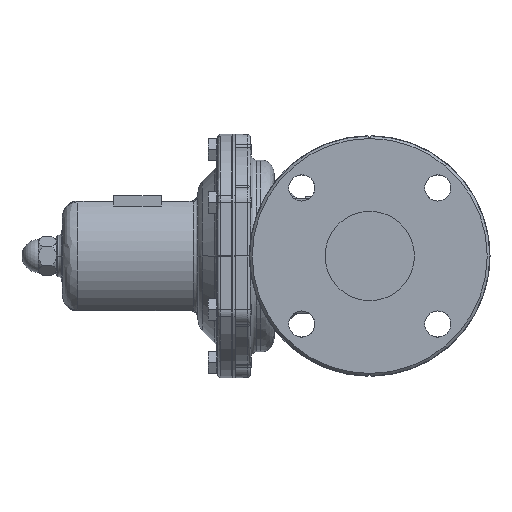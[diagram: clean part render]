
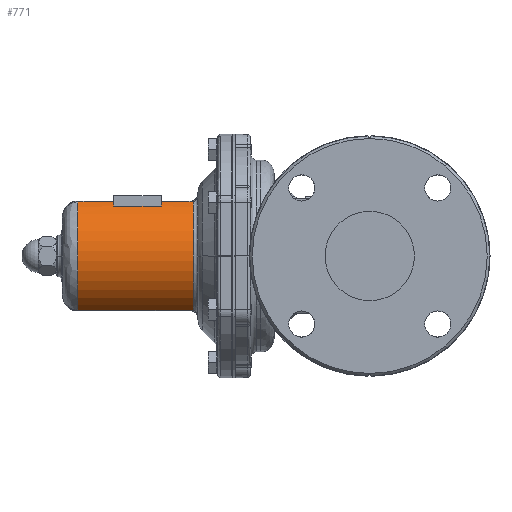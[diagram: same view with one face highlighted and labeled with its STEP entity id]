
A CAD part, left-side view. The second image highlights one B-rep face of the part: STEP entity #771.
In plain terms, the highlighted cylindrical face has radius 45 mm (diameter 90 mm), a partial arc.
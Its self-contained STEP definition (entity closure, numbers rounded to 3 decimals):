
#771=ADVANCED_FACE('',(#6016),#6015,.T.);
#6015=CYLINDRICAL_SURFACE('',#19019,45.);
#6016=FACE_OUTER_BOUND('',#19020,.T.);
#19016=CARTESIAN_POINT('',(0.,0.,0.));
#19017=DIRECTION('',(0.,0.,1.));
#19018=DIRECTION('',(1.,0.,0.));
#19019=AXIS2_PLACEMENT_3D('',#19016,#19017,#19018);
#19020=EDGE_LOOP('',(#23227,#23228,#23229,#23230,#23231,#23232,#23233,#23234,#23235,#23236,#23237,#23238));
#23227=ORIENTED_EDGE('',*,*,#25333,.F.);
#23228=ORIENTED_EDGE('',*,*,#25334,.T.);
#23229=ORIENTED_EDGE('',*,*,#25297,.T.);
#23230=ORIENTED_EDGE('',*,*,#25293,.T.);
#23231=ORIENTED_EDGE('',*,*,#25335,.T.);
#23232=ORIENTED_EDGE('',*,*,#25321,.T.);
#23233=ORIENTED_EDGE('',*,*,#25331,.T.);
#23234=ORIENTED_EDGE('',*,*,#25336,.T.);
#23235=ORIENTED_EDGE('',*,*,#25312,.T.);
#23236=ORIENTED_EDGE('',*,*,#25337,.T.);
#23237=ORIENTED_EDGE('',*,*,#25338,.F.);
#23238=ORIENTED_EDGE('',*,*,#25339,.F.);
#25293=EDGE_CURVE('',#33212,#33205,#33213,.T.);
#25297=EDGE_CURVE('',#33225,#33212,#33238,.T.);
#25312=EDGE_CURVE('',#33339,#33332,#33340,.T.);
#25321=EDGE_CURVE('',#33400,#33401,#33402,.T.);
#25331=EDGE_CURVE('',#33401,#33352,#33466,.T.);
#25333=EDGE_CURVE('',#33478,#33479,#33480,.T.);
#25334=EDGE_CURVE('',#33478,#33225,#33486,.T.);
#25335=EDGE_CURVE('',#33205,#33400,#33492,.T.);
#25336=EDGE_CURVE('',#33352,#33339,#33498,.T.);
#25337=EDGE_CURVE('',#33332,#33504,#33505,.T.);
#25338=EDGE_CURVE('',#33511,#33504,#33512,.T.);
#25339=EDGE_CURVE('',#33479,#33511,#33518,.T.);
#33205=VERTEX_POINT('',#45246);
#33212=VERTEX_POINT('',#45271);
#33213=CIRCLE('',#45275,45.);
#33225=VERTEX_POINT('',#45300);
#33238=(BOUNDED_CURVE() B_SPLINE_CURVE(3,(#45309,#45310,#45311,#45312),.UNSPECIFIED.,.F.,.F.) B_SPLINE_CURVE_WITH_KNOTS((4,4),(0.,0.),.UNSPECIFIED.) CURVE() GEOMETRIC_REPRESENTATION_ITEM() RATIONAL_B_SPLINE_CURVE((1.,1.,1.,1.)) REPRESENTATION_ITEM('') );
#33332=VERTEX_POINT('',#45460);
#33339=VERTEX_POINT('',#45465);
#33340=(BOUNDED_CURVE() B_SPLINE_CURVE(3,(#45466,#45467,#45468,#45469),.UNSPECIFIED.,.F.,.F.) B_SPLINE_CURVE_WITH_KNOTS((4,4),(0.,0.002),.UNSPECIFIED.) CURVE() GEOMETRIC_REPRESENTATION_ITEM() RATIONAL_B_SPLINE_CURVE((1.,1.,1.,1.)) REPRESENTATION_ITEM('') );
#33352=VERTEX_POINT('',#45474);
#33400=VERTEX_POINT('',#45562);
#33401=VERTEX_POINT('',#45563);
#33402=LINE('',#45564,#45565);
#33466=(BOUNDED_CURVE() B_SPLINE_CURVE(3,(#45638,#45639,#45640,#45641,#45642,#45643),.UNSPECIFIED.,.F.,.F.) B_SPLINE_CURVE_WITH_KNOTS((4,2,4),(0.,0.001,0.002),.UNSPECIFIED.) CURVE() GEOMETRIC_REPRESENTATION_ITEM() RATIONAL_B_SPLINE_CURVE((1.,1.,1.,1.,1.,1.)) REPRESENTATION_ITEM('') );
#33478=VERTEX_POINT('',#45650);
#33479=VERTEX_POINT('',#45651);
#33480=CIRCLE('',#45655,45.);
#33486=LINE('',#45656,#45657);
#33492=(BOUNDED_CURVE() B_SPLINE_CURVE(3,(#45659,#45660,#45661,#45662),.UNSPECIFIED.,.F.,.F.) B_SPLINE_CURVE_WITH_KNOTS((4,4),(0.,0.),.UNSPECIFIED.) CURVE() GEOMETRIC_REPRESENTATION_ITEM() RATIONAL_B_SPLINE_CURVE((1.,1.,1.,1.)) REPRESENTATION_ITEM('') );
#33498=CIRCLE('',#45666,45.);
#33504=VERTEX_POINT('',#45667);
#33505=LINE('',#45668,#45669);
#33511=VERTEX_POINT('',#45671);
#33512=CIRCLE('',#45675,45.);
#33518=LINE('',#45676,#45677);
#45246=CARTESIAN_POINT('',(-21.786,39.375,112.877));
#45271=CARTESIAN_POINT('',(-21.786,-39.375,112.877));
#45272=CARTESIAN_POINT('',(0.,0.,112.877));
#45273=DIRECTION('',(0.,0.,-1.));
#45274=DIRECTION('',(-0.484,0.875,0.));
#45275=AXIS2_PLACEMENT_3D('',#45272,#45273,#45274);
#45300=CARTESIAN_POINT('',(-21.786,-39.375,112.847));
#45309=CARTESIAN_POINT('',(-21.786,-39.375,112.847));
#45310=CARTESIAN_POINT('',(-21.786,-39.375,112.857));
#45311=CARTESIAN_POINT('',(-21.786,-39.375,112.867));
#45312=CARTESIAN_POINT('',(-21.786,-39.375,112.877));
#45460=CARTESIAN_POINT('',(-21.786,-39.375,30.5));
#45465=CARTESIAN_POINT('',(-21.554,-39.502,29.));
#45466=CARTESIAN_POINT('',(-21.554,-39.502,29.));
#45467=CARTESIAN_POINT('',(-21.706,-39.419,29.486));
#45468=CARTESIAN_POINT('',(-21.786,-39.375,29.985));
#45469=CARTESIAN_POINT('',(-21.786,-39.375,30.5));
#45474=CARTESIAN_POINT('',(-21.554,39.502,29.));
#45562=CARTESIAN_POINT('',(-21.786,39.375,112.847));
#45563=CARTESIAN_POINT('',(-21.786,39.375,30.5));
#45564=CARTESIAN_POINT('',(-21.786,39.375,112.847));
#45565=VECTOR('',#45566,82.347);
#45566=DIRECTION('',(0.,0.,-1.));
#45638=CARTESIAN_POINT('',(-21.786,39.375,30.5));
#45639=CARTESIAN_POINT('',(-21.786,39.375,30.244));
#45640=CARTESIAN_POINT('',(-21.765,39.386,29.988));
#45641=CARTESIAN_POINT('',(-21.687,39.429,29.487));
#45642=CARTESIAN_POINT('',(-21.629,39.461,29.241));
#45643=CARTESIAN_POINT('',(-21.554,39.502,29.));
#45650=CARTESIAN_POINT('',(-21.786,-39.375,86.75));
#45651=CARTESIAN_POINT('',(-26.5,-36.37,86.75));
#45652=CARTESIAN_POINT('',(0.,0.,86.75));
#45653=DIRECTION('',(0.,0.,-1.));
#45654=DIRECTION('',(1.,0.,0.));
#45655=AXIS2_PLACEMENT_3D('',#45652,#45653,#45654);
#45656=CARTESIAN_POINT('',(-21.786,-39.375,86.75));
#45657=VECTOR('',#45658,26.097);
#45658=DIRECTION('',(0.,0.,1.));
#45659=CARTESIAN_POINT('',(-21.786,39.375,112.877));
#45660=CARTESIAN_POINT('',(-21.786,39.375,112.867));
#45661=CARTESIAN_POINT('',(-21.786,39.375,112.857));
#45662=CARTESIAN_POINT('',(-21.786,39.375,112.847));
#45663=CARTESIAN_POINT('',(0.,0.,29.));
#45664=DIRECTION('',(0.,0.,1.));
#45665=DIRECTION('',(1.,0.,0.));
#45666=AXIS2_PLACEMENT_3D('',#45663,#45664,#45665);
#45667=CARTESIAN_POINT('',(-21.786,-39.375,52.25));
#45668=CARTESIAN_POINT('',(-21.786,-39.375,30.5));
#45669=VECTOR('',#45670,21.75);
#45670=DIRECTION('',(0.,0.,1.));
#45671=CARTESIAN_POINT('',(-26.5,-36.37,52.25));
#45672=CARTESIAN_POINT('',(0.,0.,52.25));
#45673=DIRECTION('',(0.,0.,1.));
#45674=DIRECTION('',(-1.,0.,0.));
#45675=AXIS2_PLACEMENT_3D('',#45672,#45673,#45674);
#45676=CARTESIAN_POINT('',(-26.5,-36.37,86.75));
#45677=VECTOR('',#45678,34.5);
#45678=DIRECTION('',(0.,0.,-1.));
